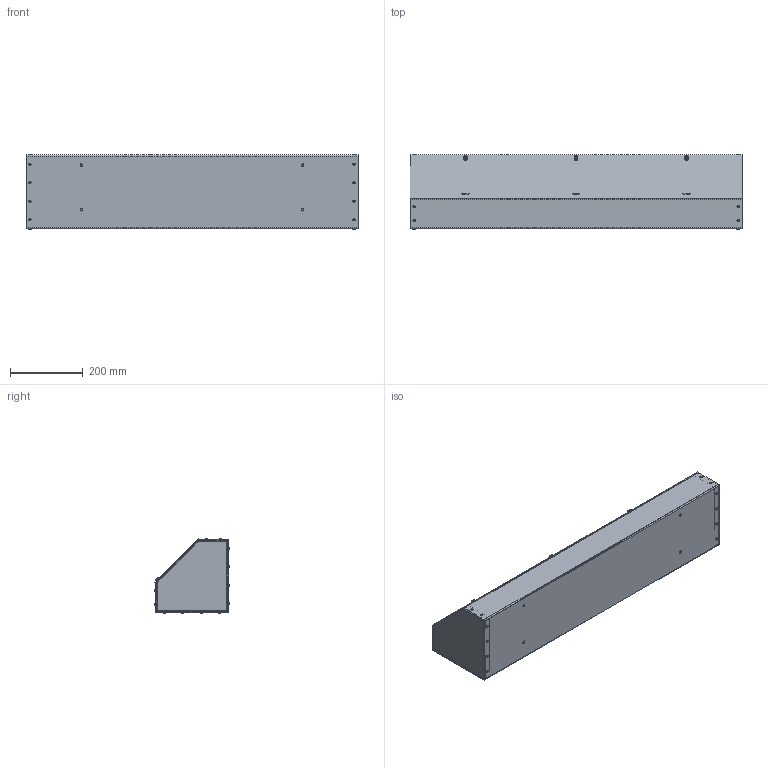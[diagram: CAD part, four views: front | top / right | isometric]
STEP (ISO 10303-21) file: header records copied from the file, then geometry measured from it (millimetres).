
FILE_DESCRIPTION (( 'STEP AP203' ), '1' );
FILE_NAME ('at8836.STEP', '2017-10-03T13:27:06', ( '' ), ( '' ), 'SwSTEP 2.0', 'SolidWorks 2014', '' );
FILE_SCHEMA (( 'CONFIG_CONTROL_DESIGN' ));
Length unit declared in the file: inch
Products named in the file (8): 16111002_INSTALLED .144 THICKNESS; 89159153 ; 89159132 ; 87791796_PANHTS 0.19-32-type I-F-0.563-S; 87780048; at8836; 89159109 ; 89159122 
Assembly tree (33 placements, depth 3):
  at8836
    89159153 
      89159109 
      89159122   x2
      16111002_INSTALLED .144 THICKNESS  x24
    89159132 
    87791796_PANHTS 0.19-32-type I-F-0.563-S  x3
    87780048
Bounding box: 914.4 x 205.03 x 205.03 mm (x, y, z)
Volume: 1441385.6 mm3; surface area: 1601558 mm2
Topology: 32 solids, 32 shells, 1392 faces, 3435 edges, 2131 vertices
Faces by surface type: plane 698, cylinder 408, cone 150, bspline 112, torus 24
Entity records: 19523 total; most frequent: CARTESIAN_POINT 3811, DIRECTION 2975, ORIENTED_EDGE 2964, EDGE_CURVE 1482, AXIS2_PLACEMENT_3D 1032, VERTEX_POINT 948, VECTOR 911, LINE 911
